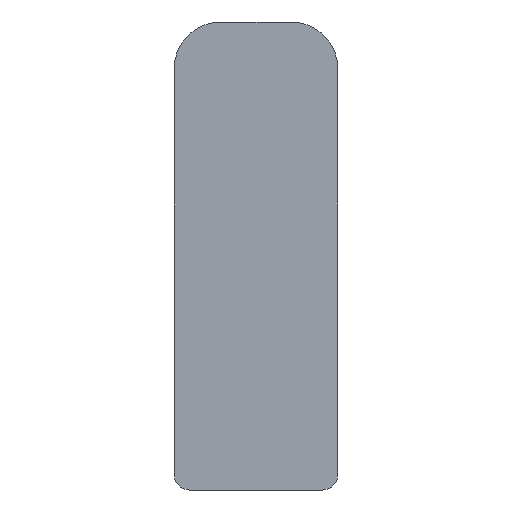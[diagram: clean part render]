
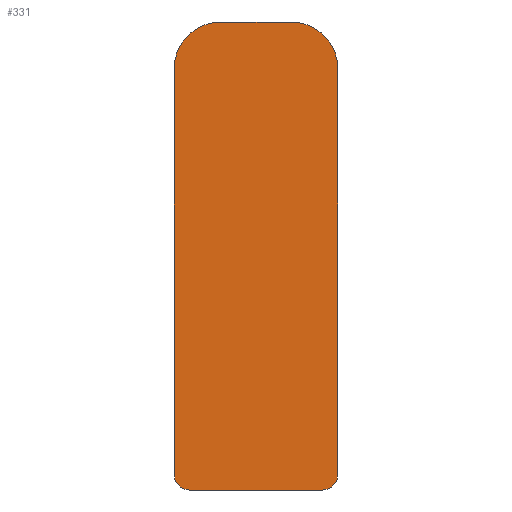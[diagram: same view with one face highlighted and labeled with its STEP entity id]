
A CAD part, left-side view. The second image highlights one B-rep face of the part: STEP entity #331.
In plain terms, the highlighted planar face has unit normal (-1, 0, 0).
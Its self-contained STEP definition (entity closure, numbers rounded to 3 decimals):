
#1 = AXIS2_PLACEMENT_3D ( 'NONE', #225, #223, #219 ) ;
#5 = EDGE_CURVE ( 'NONE', #280, #315, #33, .T. ) ;
#10 = VECTOR ( 'NONE', #310, 1000. ) ;
#12 = LINE ( 'NONE', #312, #10 ) ;
#14 = CIRCLE ( 'NONE', #161, 1. ) ;
#18 = ORIENTED_EDGE ( 'NONE', *, *, #90, .T. ) ;
#23 = ORIENTED_EDGE ( 'NONE', *, *, #92, .T. ) ;
#33 = CIRCLE ( 'NONE', #1, 3. ) ;
#40 = EDGE_LOOP ( 'NONE', ( #81, #82, #83, #84, #85, #86, #18, #23 ) ) ;
#81 = ORIENTED_EDGE ( 'NONE', *, *, #5, .T. ) ;
#82 = ORIENTED_EDGE ( 'NONE', *, *, #167, .T. ) ;
#83 = ORIENTED_EDGE ( 'NONE', *, *, #170, .T. ) ;
#84 = ORIENTED_EDGE ( 'NONE', *, *, #173, .T. ) ;
#85 = ORIENTED_EDGE ( 'NONE', *, *, #176, .T. ) ;
#86 = ORIENTED_EDGE ( 'NONE', *, *, #179, .T. ) ;
#90 = EDGE_CURVE ( 'NONE', #318, #287, #14, .T. ) ;
#92 = EDGE_CURVE ( 'NONE', #287, #280, #12, .T. ) ;
#103 = VECTOR ( 'NONE', #278, 1000. ) ;
#105 = CIRCLE ( 'NONE', #155, 1. ) ;
#118 = FACE_OUTER_BOUND ( 'NONE', #40, .T. ) ;
#122 = VECTOR ( 'NONE', #260, 1000. ) ;
#123 = LINE ( 'NONE', #262, #122 ) ;
#125 = LINE ( 'NONE', #281, #103 ) ;
#129 = CIRCLE ( 'NONE', #157, 3. ) ;
#133 = VECTOR ( 'NONE', #298, 1000. ) ;
#137 = LINE ( 'NONE', #299, #133 ) ;
#152 = AXIS2_PLACEMENT_3D ( 'NONE', #231, #230, #229 ) ;
#155 = AXIS2_PLACEMENT_3D ( 'NONE', #270, #268, #267 ) ;
#157 = AXIS2_PLACEMENT_3D ( 'NONE', #290, #289, #288 ) ;
#161 = AXIS2_PLACEMENT_3D ( 'NONE', #319, #317, #316 ) ;
#167 = EDGE_CURVE ( 'NONE', #315, #306, #137, .T. ) ;
#170 = EDGE_CURVE ( 'NONE', #306, #277, #129, .T. ) ;
#173 = EDGE_CURVE ( 'NONE', #277, #291, #125, .T. ) ;
#176 = EDGE_CURVE ( 'NONE', #291, #283, #105, .T. ) ;
#179 = EDGE_CURVE ( 'NONE', #283, #318, #123, .T. ) ;
#219 = DIRECTION ( 'NONE',  ( 0., 0., 1. ) ) ;
#223 = DIRECTION ( 'NONE',  ( -1., 0., 0. ) ) ;
#225 = CARTESIAN_POINT ( 'NONE',  ( -481.25, -2.25, 27. ) ) ;
#229 = DIRECTION ( 'NONE',  ( 0., 0., 1. ) ) ;
#230 = DIRECTION ( 'NONE',  ( -1., 0., 0. ) ) ;
#231 = CARTESIAN_POINT ( 'NONE',  ( -481.25, -2.25, 27. ) ) ;
#233 = PLANE ( 'NONE',  #152 ) ;
#246 = CARTESIAN_POINT ( 'NONE',  ( -481.25, -4.25, 0. ) ) ;
#247 = CARTESIAN_POINT ( 'NONE',  ( -481.25, -2.25, 30. ) ) ;
#249 = CARTESIAN_POINT ( 'NONE',  ( -481.25, 2.25, 30. ) ) ;
#253 = CARTESIAN_POINT ( 'NONE',  ( -481.25, 5.25, 1. ) ) ;
#254 = CARTESIAN_POINT ( 'NONE',  ( -481.25, -5.25, 1. ) ) ;
#255 = CARTESIAN_POINT ( 'NONE',  ( -481.25, 4.25, 0. ) ) ;
#256 = CARTESIAN_POINT ( 'NONE',  ( -481.25, -5.25, 27. ) ) ;
#258 = CARTESIAN_POINT ( 'NONE',  ( -481.25, 5.25, 27. ) ) ;
#260 = DIRECTION ( 'NONE',  ( 0., -1., 0. ) ) ;
#262 = CARTESIAN_POINT ( 'NONE',  ( -481.25, -4.25, 0. ) ) ;
#267 = DIRECTION ( 'NONE',  ( 0., 0., -1. ) ) ;
#268 = DIRECTION ( 'NONE',  ( -1., 0., 0. ) ) ;
#270 = CARTESIAN_POINT ( 'NONE',  ( -481.25, 4.25, 1. ) ) ;
#277 = VERTEX_POINT ( 'NONE', #258 ) ;
#278 = DIRECTION ( 'NONE',  ( 0., 0., -1. ) ) ;
#280 = VERTEX_POINT ( 'NONE', #256 ) ;
#281 = CARTESIAN_POINT ( 'NONE',  ( -481.25, 5.25, 1. ) ) ;
#283 = VERTEX_POINT ( 'NONE', #255 ) ;
#287 = VERTEX_POINT ( 'NONE', #254 ) ;
#288 = DIRECTION ( 'NONE',  ( 0., 0., -1. ) ) ;
#289 = DIRECTION ( 'NONE',  ( -1., 0., 0. ) ) ;
#290 = CARTESIAN_POINT ( 'NONE',  ( -481.25, 2.25, 27. ) ) ;
#291 = VERTEX_POINT ( 'NONE', #253 ) ;
#298 = DIRECTION ( 'NONE',  ( 0., 1., 0. ) ) ;
#299 = CARTESIAN_POINT ( 'NONE',  ( -481.25, -2.25, 30. ) ) ;
#306 = VERTEX_POINT ( 'NONE', #249 ) ;
#310 = DIRECTION ( 'NONE',  ( 0., 0., 1. ) ) ;
#312 = CARTESIAN_POINT ( 'NONE',  ( -481.25, -5.25, 1. ) ) ;
#315 = VERTEX_POINT ( 'NONE', #247 ) ;
#316 = DIRECTION ( 'NONE',  ( 0., 0., -1. ) ) ;
#317 = DIRECTION ( 'NONE',  ( -1., 0., 0. ) ) ;
#318 = VERTEX_POINT ( 'NONE', #246 ) ;
#319 = CARTESIAN_POINT ( 'NONE',  ( -481.25, -4.25, 1. ) ) ;
#331 = ADVANCED_FACE ( 'NONE', ( #118 ), #233, .T. ) ;
